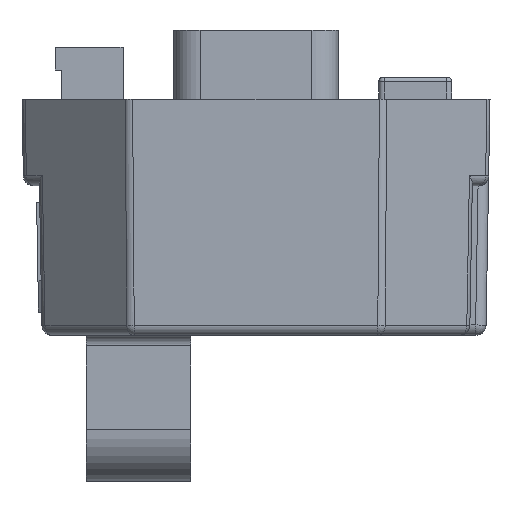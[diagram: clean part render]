
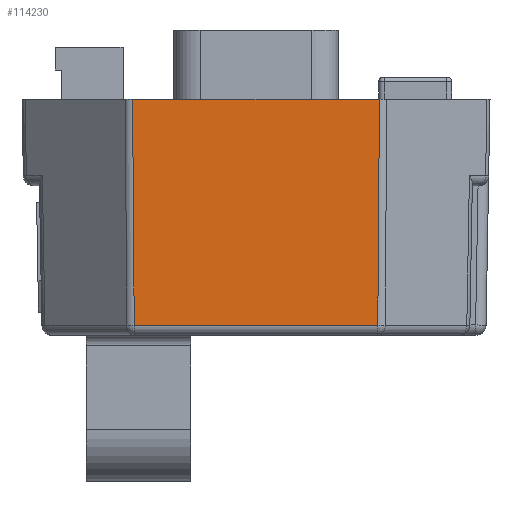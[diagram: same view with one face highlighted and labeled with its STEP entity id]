
A CAD part, left-side view. The second image highlights one B-rep face of the part: STEP entity #114230.
In plain terms, the highlighted planar face has unit normal (-1, 0, -0.018).
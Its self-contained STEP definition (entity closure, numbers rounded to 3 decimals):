
#7970=CARTESIAN_POINT('',(-8.544,-29.562,24.));
#7980=VERTEX_POINT('',#7970);
#8010=CARTESIAN_POINT('',(-8.544,0.,24.));
#8020=DIRECTION('',(0.,-1.,0.));
#8030=VECTOR('',#8020,1.);
#8040=LINE('',#8010,#8030);
#8050=CARTESIAN_POINT('',(-8.544,-5.938,24.));
#8060=VERTEX_POINT('',#8050);
#8070=EDGE_CURVE('',#8060,#7980,#8040,.T.);
#14240=CARTESIAN_POINT('',(-8.167,-29.406,
2.388));
#14250=VERTEX_POINT('',#14240);
#27610=CARTESIAN_POINT('',(-8.347,-29.48,
12.703));
#27620=DIRECTION('',(-0.017,-0.007,
1.));
#27630=VECTOR('',#27620,1.);
#27640=LINE('',#27610,#27630);
#27650=EDGE_CURVE('',#14250,#7980,#27640,.T.);
#114000=CARTESIAN_POINT('',(-8.15,0.,1.4));
#114010=DIRECTION('',(-1.,0.,-0.017));
#114020=DIRECTION('',(0.,1.,0.));
#114030=AXIS2_PLACEMENT_3D('',#114000,#114010,#114020);
#114040=PLANE('',#114030);
#114050=CARTESIAN_POINT('',(-8.167,-17.75,
2.383));
#114060=DIRECTION('',(0.,-1.,0.));
#114070=VECTOR('',#114060,1.);
#114080=LINE('',#114050,#114070);
#114090=CARTESIAN_POINT('',(-8.167,-6.095,
2.383));
#114100=VERTEX_POINT('',#114090);
#114110=EDGE_CURVE('',#114100,#14250,#114080,.T.);
#114120=ORIENTED_EDGE('',*,*,#114110,.T.);
#114130=CARTESIAN_POINT('',(-8.347,-6.02,
12.703));
#114140=DIRECTION('',(-0.017,0.007,
1.));
#114150=VECTOR('',#114140,1.);
#114160=LINE('',#114130,#114150);
#114170=EDGE_CURVE('',#114100,#8060,#114160,.T.);
#114180=ORIENTED_EDGE('',*,*,#114170,.F.);
#114190=ORIENTED_EDGE('',*,*,#8070,.F.);
#114200=ORIENTED_EDGE('',*,*,#27650,.T.);
#114210=EDGE_LOOP('',(#114200,#114190,#114180,#114120));
#114220=FACE_OUTER_BOUND('',#114210,.T.);
#114230=ADVANCED_FACE('',(#114220),#114040,.T.);
